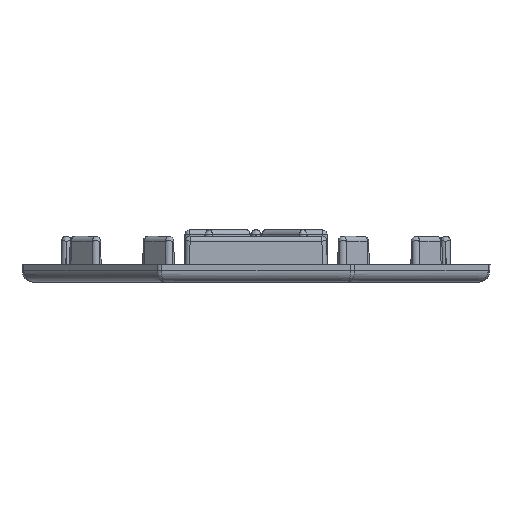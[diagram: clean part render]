
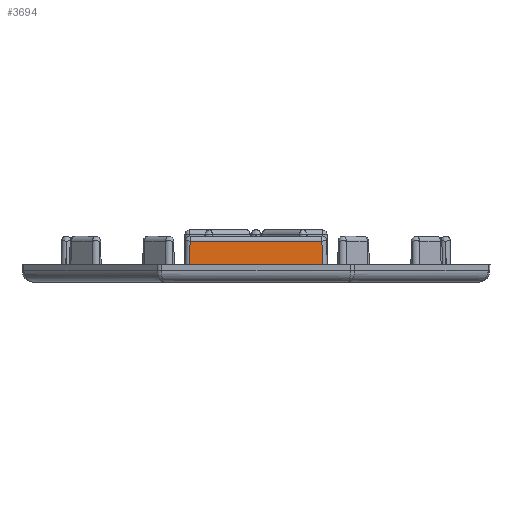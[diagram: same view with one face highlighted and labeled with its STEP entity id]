
A CAD part, left-side view. The second image highlights one B-rep face of the part: STEP entity #3694.
In plain terms, the highlighted free-form (B-spline) face has degree [1, 1] with [2, 2] control points.
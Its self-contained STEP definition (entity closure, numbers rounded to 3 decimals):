
#3660=CARTESIAN_POINT('Control Point',(-70.07,-1.845,-0.85)) ;
#3661=CARTESIAN_POINT('Control Point',(-69.985,-1.845,3.999)) ;
#3662=CARTESIAN_POINT('Control Point',(-70.07,-24.445,-0.85)) ;
#3663=CARTESIAN_POINT('Control Point',(-69.985,-24.445,3.999)) ;
#3665=CARTESIAN_POINT('Control Point',(-70.07,-24.445,-0.85)) ;
#3666=CARTESIAN_POINT('Control Point',(-69.985,-24.36,3.999)) ;
#3667=CARTESIAN_POINT('Vertex',(-70.07,-24.445,-0.85)) ;
#3669=CARTESIAN_POINT('Vertex',(-69.985,-24.36,3.999)) ;
#3673=CARTESIAN_POINT('Control Point',(-69.985,-24.36,3.999)) ;
#3674=CARTESIAN_POINT('Control Point',(-69.985,-1.929,3.999)) ;
#3675=CARTESIAN_POINT('Vertex',(-69.985,-1.929,3.999)) ;
#3679=CARTESIAN_POINT('Control Point',(-69.985,-1.929,3.999)) ;
#3680=CARTESIAN_POINT('Control Point',(-70.07,-1.845,-0.85)) ;
#3681=CARTESIAN_POINT('Vertex',(-70.07,-1.845,-0.85)) ;
#3685=CARTESIAN_POINT('Control Point',(-70.07,-1.845,-0.85)) ;
#3686=CARTESIAN_POINT('Control Point',(-70.07,-24.445,-0.85)) ;
#3689=ORIENTED_EDGE('',*,*,#3671,.T.) ;
#3690=ORIENTED_EDGE('',*,*,#3677,.T.) ;
#3691=ORIENTED_EDGE('',*,*,#3683,.T.) ;
#3692=ORIENTED_EDGE('',*,*,#3687,.T.) ;
#3694=ADVANCED_FACE('\X2\66F29762\X0\.218',(#3693),#3659,.T.) ;
#3664=B_SPLINE_CURVE_WITH_KNOTS('',1,(#3665,#3666),.UNSPECIFIED.,.F.,.U.,(2,2),(-0.502,0.502),.UNSPECIFIED.) ;
#3672=B_SPLINE_CURVE_WITH_KNOTS('',1,(#3673,#3674),.UNSPECIFIED.,.F.,.U.,(2,2),(-11.215,11.215),.UNSPECIFIED.) ;
#3678=B_SPLINE_CURVE_WITH_KNOTS('',1,(#3679,#3680),.UNSPECIFIED.,.F.,.U.,(2,2),(-0.502,0.502),.UNSPECIFIED.) ;
#3684=B_SPLINE_CURVE_WITH_KNOTS('',1,(#3685,#3686),.UNSPECIFIED.,.F.,.U.,(2,2),(-11.3,11.3),.UNSPECIFIED.) ;
#3659=B_SPLINE_SURFACE_WITH_KNOTS('',1,1,((#3660,#3661),(#3662,#3663)),.UNSPECIFIED.,.F.,.F.,.U.,(2,2),(2,2),(-11.3,11.3),(0.,1.),.UNSPECIFIED.) ;
#3671=EDGE_CURVE('',#3668,#3670,#3664,.T.) ;
#3677=EDGE_CURVE('',#3670,#3676,#3672,.T.) ;
#3683=EDGE_CURVE('',#3676,#3682,#3678,.T.) ;
#3687=EDGE_CURVE('',#3682,#3668,#3684,.T.) ;
#3688=EDGE_LOOP('',(#3689,#3690,#3691,#3692)) ;
#3693=FACE_OUTER_BOUND('',#3688,.T.) ;
#3668=VERTEX_POINT('',#3667) ;
#3670=VERTEX_POINT('',#3669) ;
#3676=VERTEX_POINT('',#3675) ;
#3682=VERTEX_POINT('',#3681) ;
